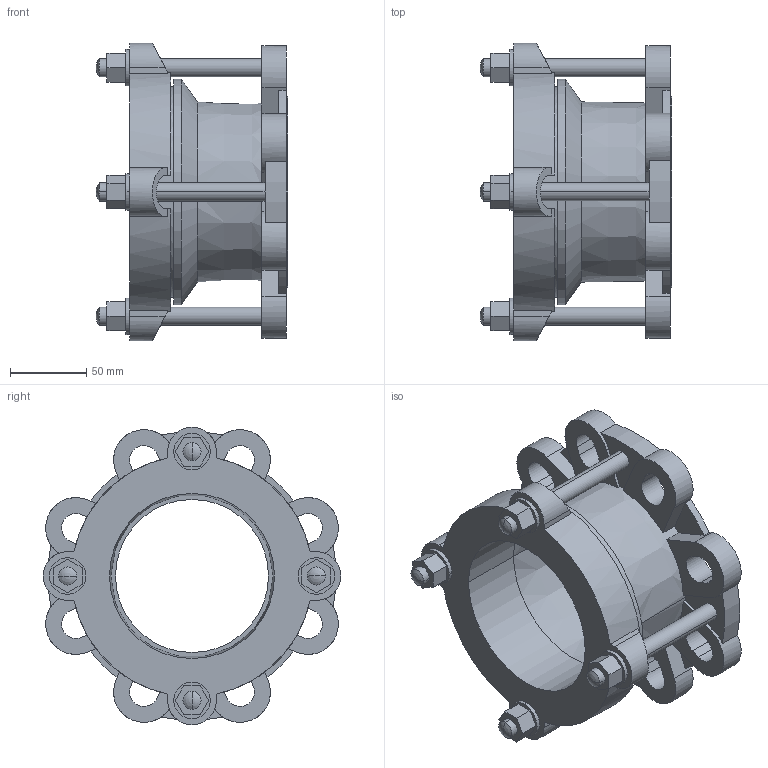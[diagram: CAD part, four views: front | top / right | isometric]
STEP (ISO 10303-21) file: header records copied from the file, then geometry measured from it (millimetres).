
FILE_DESCRIPTION((''),'2;1');
FILE_NAME('BIM_12419_3','2018-10-05T',('MReader'),(''),'CREO PARAMETRIC BY PTC INC, 2016130','CREO PARAMETRIC BY PTC INC, 2016130','');
FILE_SCHEMA(('CONFIG_CONTROL_DESIGN'));
Length unit declared in the file: millimetre
Products named in the file (1): BIM_12419_3
Bounding box: 126 x 195.5 x 195.5 mm (x, y, z)
Volume: 770464.9 mm3; surface area: 175307.5 mm2
Topology: 1 solids, 1 shells, 213 faces, 578 edges, 374 vertices
Faces by surface type: plane 121, cylinder 78, sphere 8, cone 6
Entity records: 6890 total; most frequent: CARTESIAN_POINT 1323, DIRECTION 1174, ORIENTED_EDGE 1140, EDGE_CURVE 570, AXIS2_PLACEMENT_3D 415, VERTEX_POINT 374, VECTOR 344, LINE 344
